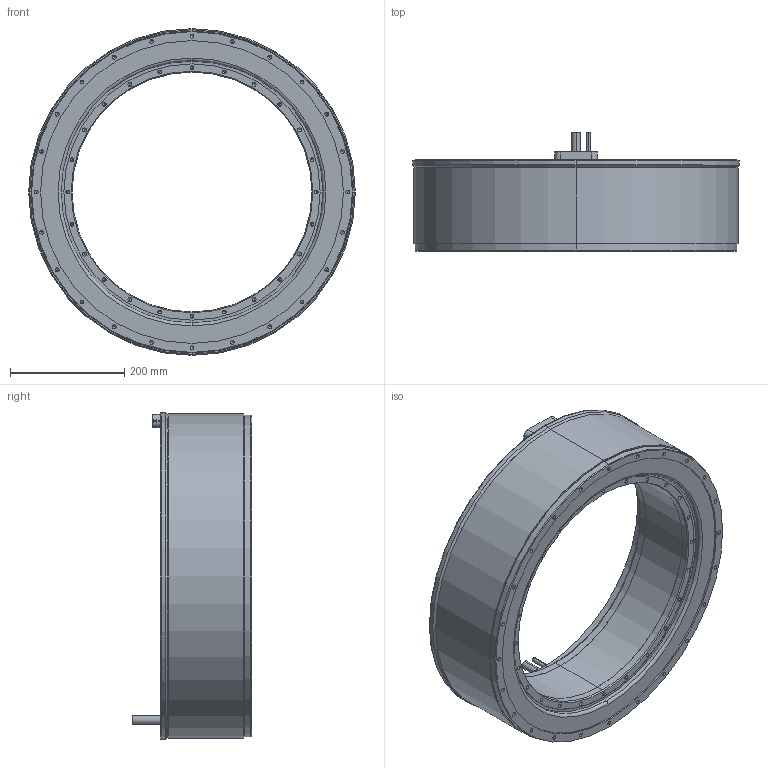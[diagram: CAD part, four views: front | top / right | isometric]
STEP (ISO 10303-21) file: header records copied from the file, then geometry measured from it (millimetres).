
FILE_DESCRIPTION (( 'STEP AP203' ), '1' );
FILE_NAME ('TM-2-GC-PD0(J0).STEP', '2023-06-06T03:48:52', ( '' ), ( '' ), 'SwSTEP 2.0', 'SolidWorks 2015', '' );
FILE_SCHEMA (( 'CONFIG_CONTROL_DESIGN' ));
Length unit declared in the file: millimetre
Products named in the file (3): TM-2-GC-PD0(J0); TM-2-GC(J0)_Rotor; TM-2-GC-PD0(J0)_Stator
Assembly tree (2 placements, depth 2):
  TM-2-GC-PD0(J0)
    TM-2-GC-PD0(J0)_Stator
    TM-2-GC(J0)_Rotor
Bounding box: 572 x 209 x 572 mm (x, y, z)
Volume: 16912428.5 mm3; surface area: 1131950 mm2
Topology: 2 solids, 2 shells, 523 faces, 1266 edges, 670 vertices
Faces by surface type: cylinder 248, cone 216, plane 51, torus 8
Entity records: 14111 total; most frequent: DIRECTION 2660, CARTESIAN_POINT 2268, ORIENTED_EDGE 2140, EDGE_CURVE 1070, AXIS2_PLACEMENT_3D 1062, VERTEX_POINT 670, EDGE_LOOP 646, LINE 536
